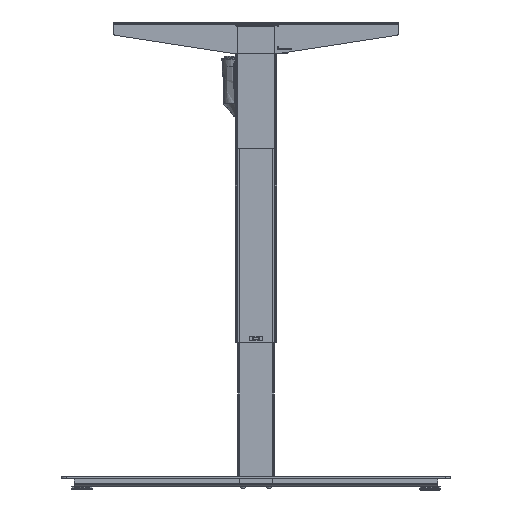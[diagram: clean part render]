
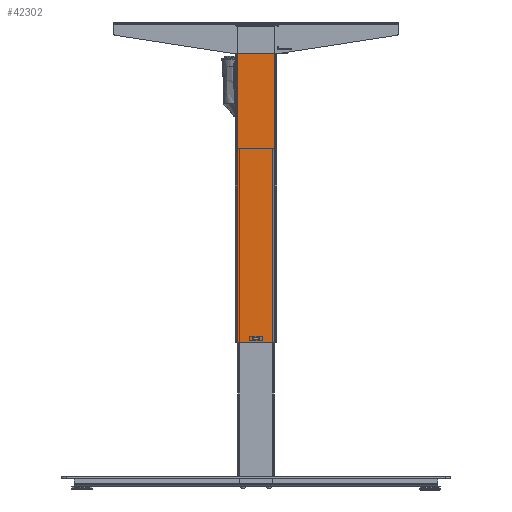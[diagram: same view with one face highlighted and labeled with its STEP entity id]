
A CAD part, left-side view. The second image highlights one B-rep face of the part: STEP entity #42302.
In plain terms, the highlighted planar face has unit normal (-1, 0, 0).
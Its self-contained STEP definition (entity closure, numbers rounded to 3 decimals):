
#2685 = CARTESIAN_POINT ( 'NONE',  ( -29.5, 36.5, 614. ) ) ;
#3677 = LINE ( 'NONE', #39332, #56761 ) ;
#3885 = DIRECTION ( 'NONE',  ( 0., -1., 0. ) ) ;
#4410 = CARTESIAN_POINT ( 'NONE',  ( -29.5, 6., 10. ) ) ;
#5430 = VERTEX_POINT ( 'NONE', #98120 ) ;
#5470 = CARTESIAN_POINT ( 'NONE',  ( -29.5, -36.5, 0. ) ) ;
#6263 = AXIS2_PLACEMENT_3D ( 'NONE', #2685, #104845, #75236 ) ;
#6384 = EDGE_CURVE ( 'NONE', #117058, #37295, #12865, .T. ) ;
#7746 = VECTOR ( 'NONE', #48798, 1000. ) ;
#10802 = VECTOR ( 'NONE', #3885, 1000. ) ;
#12215 = CARTESIAN_POINT ( 'NONE',  ( -29.5, 36.5, 614. ) ) ;
#12765 = VERTEX_POINT ( 'NONE', #107802 ) ;
#12865 = LINE ( 'NONE', #86681, #10802 ) ;
#14024 = LINE ( 'NONE', #4410, #36341 ) ;
#16042 = LINE ( 'NONE', #33632, #31324 ) ;
#19486 = EDGE_CURVE ( 'NONE', #78141, #37295, #37297, .T. ) ;
#22671 = ORIENTED_EDGE ( 'NONE', *, *, #55362, .F. ) ;
#28996 = ORIENTED_EDGE ( 'NONE', *, *, #6384, .T. ) ;
#30390 = DIRECTION ( 'NONE',  ( 0., 0., -1. ) ) ;
#30394 = DIRECTION ( 'NONE',  ( 0., 0., -1. ) ) ;
#31324 = VECTOR ( 'NONE', #71734, 1000. ) ;
#31426 = DIRECTION ( 'NONE',  ( 0., 1., 0. ) ) ;
#33632 = CARTESIAN_POINT ( 'NONE',  ( -29.5, 39.5, 609. ) ) ;
#35491 = ORIENTED_EDGE ( 'NONE', *, *, #115487, .T. ) ;
#35784 = CARTESIAN_POINT ( 'NONE',  ( -29.5, -36.5, 609. ) ) ;
#35971 = VERTEX_POINT ( 'NONE', #100010 ) ;
#36341 = VECTOR ( 'NONE', #95732, 1000. ) ;
#37295 = VERTEX_POINT ( 'NONE', #5470 ) ;
#37297 = LINE ( 'NONE', #38492, #7746 ) ;
#38492 = CARTESIAN_POINT ( 'NONE',  ( -29.5, -36.5, 614. ) ) ;
#39332 = CARTESIAN_POINT ( 'NONE',  ( -29.5, 6., 6. ) ) ;
#40742 = FACE_OUTER_BOUND ( 'NONE', #81077, .T. ) ;
#42302 = ADVANCED_FACE ( 'NONE', ( #113939, #40742 ), #57686, .F. ) ;
#47170 = DIRECTION ( 'NONE',  ( 0., -1., 0. ) ) ;
#47721 = VERTEX_POINT ( 'NONE', #93614 ) ;
#48798 = DIRECTION ( 'NONE',  ( 0., 0., -1. ) ) ;
#52843 = EDGE_CURVE ( 'NONE', #12765, #5430, #73173, .T. ) ;
#55362 = EDGE_CURVE ( 'NONE', #111901, #78141, #16042, .T. ) ;
#56223 = CARTESIAN_POINT ( 'NONE',  ( -29.5, 6., 10. ) ) ;
#56761 = VECTOR ( 'NONE', #31426, 1000. ) ;
#56935 = CARTESIAN_POINT ( 'NONE',  ( -29.5, 36.5, 609. ) ) ;
#57686 = PLANE ( 'NONE',  #6263 ) ;
#60627 = EDGE_CURVE ( 'NONE', #5430, #47721, #76389, .T. ) ;
#61970 = ORIENTED_EDGE ( 'NONE', *, *, #19486, .F. ) ;
#64901 = CARTESIAN_POINT ( 'NONE',  ( -29.5, -6., 10. ) ) ;
#70384 = VECTOR ( 'NONE', #47170, 1000. ) ;
#71734 = DIRECTION ( 'NONE',  ( 0., -1., 0. ) ) ;
#72059 = ORIENTED_EDGE ( 'NONE', *, *, #52843, .T. ) ;
#73173 = LINE ( 'NONE', #56223, #70384 ) ;
#75236 = DIRECTION ( 'NONE',  ( 0., 1., 0. ) ) ;
#75907 = VECTOR ( 'NONE', #30394, 1000. ) ;
#76389 = LINE ( 'NONE', #64901, #113436 ) ;
#78141 = VERTEX_POINT ( 'NONE', #35784 ) ;
#81035 = EDGE_CURVE ( 'NONE', #47721, #35971, #3677, .T. ) ;
#81077 = EDGE_LOOP ( 'NONE', ( #61970, #22671, #35491, #28996 ) ) ;
#81244 = ORIENTED_EDGE ( 'NONE', *, *, #60627, .T. ) ;
#81872 = ORIENTED_EDGE ( 'NONE', *, *, #87254, .T. ) ;
#83110 = EDGE_LOOP ( 'NONE', ( #81872, #72059, #81244, #109140 ) ) ;
#86681 = CARTESIAN_POINT ( 'NONE',  ( -29.5, 36.5, 0. ) ) ;
#87254 = EDGE_CURVE ( 'NONE', #35971, #12765, #14024, .T. ) ;
#93614 = CARTESIAN_POINT ( 'NONE',  ( -29.5, -6., 6. ) ) ;
#95732 = DIRECTION ( 'NONE',  ( 0., 0., 1. ) ) ;
#98120 = CARTESIAN_POINT ( 'NONE',  ( -29.5, -6., 10. ) ) ;
#100010 = CARTESIAN_POINT ( 'NONE',  ( -29.5, 6., 6. ) ) ;
#104845 = DIRECTION ( 'NONE',  ( 1., 0., 0. ) ) ;
#107802 = CARTESIAN_POINT ( 'NONE',  ( -29.5, 6., 10. ) ) ;
#109140 = ORIENTED_EDGE ( 'NONE', *, *, #81035, .T. ) ;
#109254 = CARTESIAN_POINT ( 'NONE',  ( -29.5, 36.5, 0. ) ) ;
#111901 = VERTEX_POINT ( 'NONE', #56935 ) ;
#113436 = VECTOR ( 'NONE', #30390, 1000. ) ;
#113885 = LINE ( 'NONE', #12215, #75907 ) ;
#113939 = FACE_BOUND ( 'NONE', #83110, .T. ) ;
#115487 = EDGE_CURVE ( 'NONE', #111901, #117058, #113885, .T. ) ;
#117058 = VERTEX_POINT ( 'NONE', #109254 ) ;
